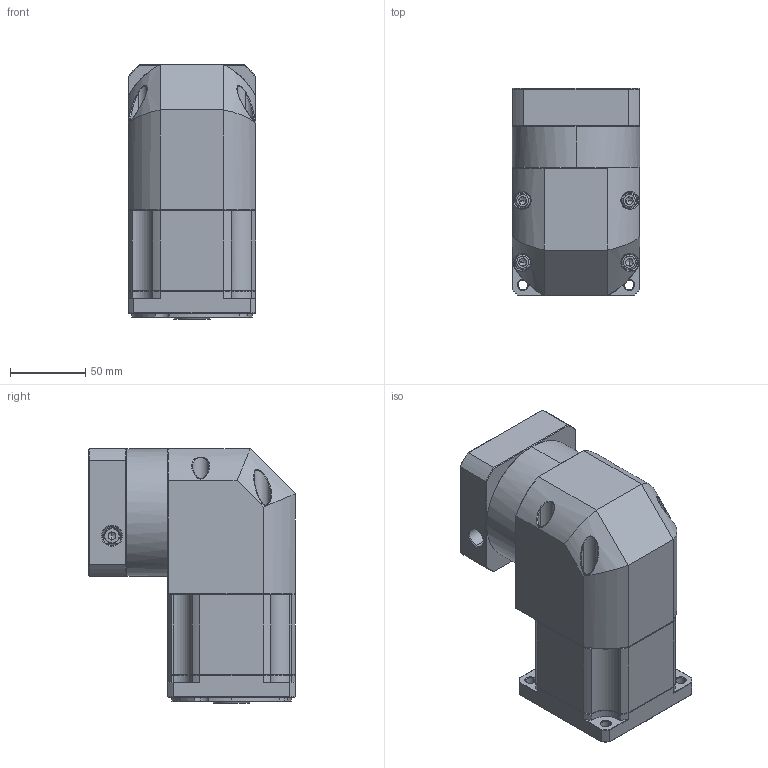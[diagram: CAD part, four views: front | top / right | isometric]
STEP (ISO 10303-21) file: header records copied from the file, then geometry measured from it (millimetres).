
FILE_DESCRIPTION (( 'STEP AP214' ), '1' );
FILE_NAME ('ZBR090-K15-L2-P2-14-73-69.6X69.6-M6.step', '2023-08-19T02:10:11', ( '' ), ( '' ), 'SwSTEP 2.0', 'SolidWorks 2016', '' );
FILE_SCHEMA (( 'AUTOMOTIVE_DESIGN' ));
Length unit declared in the file: millimetre
Products named in the file (1): ZBR090-K15-L2-P2-14-73-69.6X69.6-M6
Bounding box: 85 x 137.6 x 169.5 mm (x, y, z)
Volume: 1287730.3 mm3; surface area: 134156.8 mm2
Topology: 5 solids, 5 shells, 2341 faces, 6114 edges, 3864 vertices
Faces by surface type: plane 1150, bspline 414, cylinder 409, cone 344, torus 24
Entity records: 123519 total; most frequent: CARTESIAN_POINT 43679, ORIENTED_EDGE 12156, DIRECTION 9704, EDGE_CURVE 6078, LINE 3908, VECTOR 3908, VERTEX_POINT 3864, AXIS2_PLACEMENT_3D 2898
